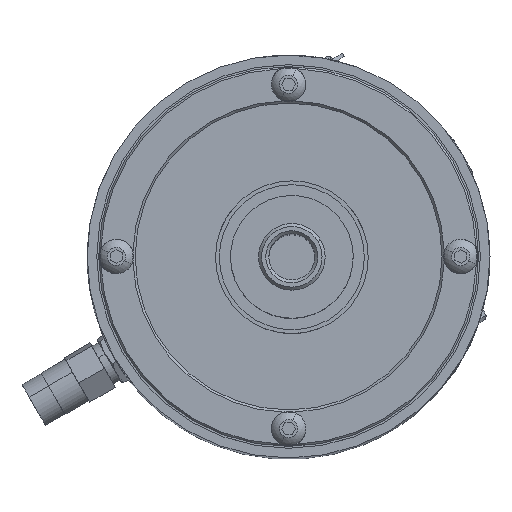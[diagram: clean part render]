
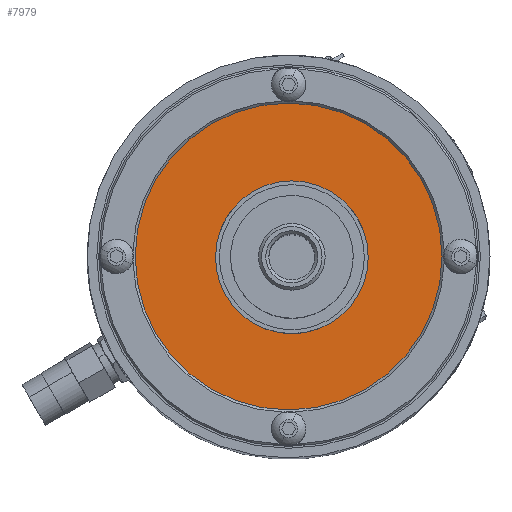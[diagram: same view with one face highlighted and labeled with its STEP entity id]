
A CAD part, top view. The second image highlights one B-rep face of the part: STEP entity #7979.
In plain terms, the highlighted planar face has unit normal (0, 0, 1).
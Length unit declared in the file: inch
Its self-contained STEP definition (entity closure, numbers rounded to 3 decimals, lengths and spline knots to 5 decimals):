
#490 = FACE_BOUND ( 'NONE', #8861, .T. ) ;
#1030 = CARTESIAN_POINT ( 'NONE',  ( -0.02131, 0.00571, 0. ) ) ;
#1077 = CARTESIAN_POINT ( 'NONE',  ( -0.21521, -0.12425, 0. ) ) ;
#1112 = CARTESIAN_POINT ( 'NONE',  ( 0.99369, 0.00571, 0. ) ) ;
#1971 = CIRCLE ( 'NONE', #5296, 1.015 ) ;
#2232 = DIRECTION ( 'NONE',  ( -1., 0., 0. ) ) ;
#2286 = AXIS2_PLACEMENT_3D ( 'NONE', #6432, #9373, #10609 ) ;
#2698 = ORIENTED_EDGE ( 'NONE', *, *, #8495, .T. ) ;
#2702 = AXIS2_PLACEMENT_3D ( 'NONE', #11096, #11163, #2232 ) ;
#3537 = FACE_OUTER_BOUND ( 'NONE', #8484, .T. ) ;
#3605 = PLANE ( 'NONE',  #4648 ) ;
#3826 = ORIENTED_EDGE ( 'NONE', *, *, #4363, .T. ) ;
#4073 = CARTESIAN_POINT ( 'NONE',  ( 0., 0., 0. ) ) ;
#4363 = EDGE_CURVE ( 'NONE', #7342, #10627, #12259, .T. ) ;
#4564 = ORIENTED_EDGE ( 'NONE', *, *, #11470, .F. ) ;
#4648 = AXIS2_PLACEMENT_3D ( 'NONE', #7510, #6455, #6595 ) ;
#4841 = EDGE_CURVE ( 'NONE', #5793, #7718, #7904, .T. ) ;
#4852 = DIRECTION ( 'NONE',  ( 1., 0., 0. ) ) ;
#4935 = DIRECTION ( 'NONE',  ( -1., 0., 0. ) ) ;
#5296 = AXIS2_PLACEMENT_3D ( 'NONE', #1030, #7862, #4935 ) ;
#5793 = VERTEX_POINT ( 'NONE', #8974 ) ;
#6432 = CARTESIAN_POINT ( 'NONE',  ( 0., 0., 0. ) ) ;
#6455 = DIRECTION ( 'NONE',  ( 0., 0., 1. ) ) ;
#6595 = DIRECTION ( 'NONE',  ( 1., 0., 0. ) ) ;
#6925 = DIRECTION ( 'NONE',  ( 0., 0., 1. ) ) ;
#7342 = VERTEX_POINT ( 'NONE', #9031 ) ;
#7510 = CARTESIAN_POINT ( 'NONE',  ( 0., 0., 0. ) ) ;
#7718 = VERTEX_POINT ( 'NONE', #1077 ) ;
#7862 = DIRECTION ( 'NONE',  ( 0., 0., 1. ) ) ;
#7904 = CIRCLE ( 'NONE', #2286, 0.2485 ) ;
#7979 = ADVANCED_FACE ( 'NONE', ( #490, #3537 ), #3605, .T. ) ;
#8250 = ORIENTED_EDGE ( 'NONE', *, *, #4841, .F. ) ;
#8404 = CIRCLE ( 'NONE', #9877, 0.2485 ) ;
#8484 = EDGE_LOOP ( 'NONE', ( #2698, #3826 ) ) ;
#8495 = EDGE_CURVE ( 'NONE', #10627, #7342, #1971, .T. ) ;
#8861 = EDGE_LOOP ( 'NONE', ( #4564, #8250 ) ) ;
#8974 = CARTESIAN_POINT ( 'NONE',  ( 0.21521, 0.12425, 0. ) ) ;
#9031 = CARTESIAN_POINT ( 'NONE',  ( -1.03631, 0.00571, 0. ) ) ;
#9373 = DIRECTION ( 'NONE',  ( 0., 0., 1. ) ) ;
#9877 = AXIS2_PLACEMENT_3D ( 'NONE', #4073, #6925, #4852 ) ;
#10609 = DIRECTION ( 'NONE',  ( 1., 0., 0. ) ) ;
#10627 = VERTEX_POINT ( 'NONE', #1112 ) ;
#11096 = CARTESIAN_POINT ( 'NONE',  ( -0.02131, 0.00571, 0. ) ) ;
#11163 = DIRECTION ( 'NONE',  ( 0., 0., 1. ) ) ;
#11470 = EDGE_CURVE ( 'NONE', #7718, #5793, #8404, .T. ) ;
#12259 = CIRCLE ( 'NONE', #2702, 1.015 ) ;
